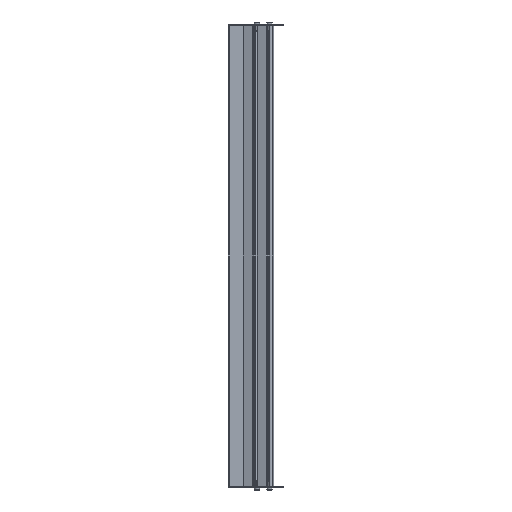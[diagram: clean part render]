
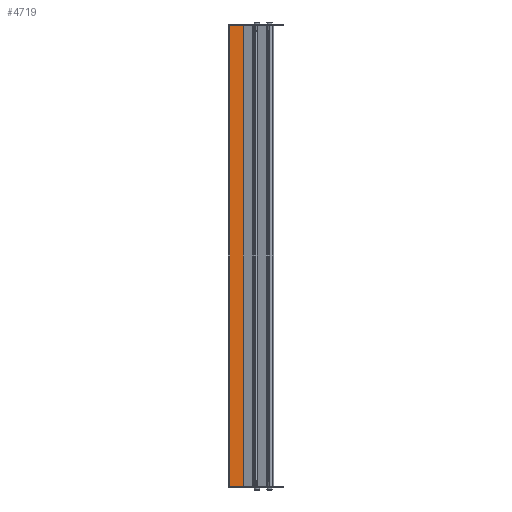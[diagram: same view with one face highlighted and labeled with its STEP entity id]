
A CAD part, left-side view. The second image highlights one B-rep face of the part: STEP entity #4719.
In plain terms, the highlighted planar face has unit normal (-1, 0, 0) as drawn and (1, 0, 0) by its records, which use the part's own axes.
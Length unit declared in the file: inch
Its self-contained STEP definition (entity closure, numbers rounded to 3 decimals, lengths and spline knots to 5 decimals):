
#3758=DIRECTION('',(0.,0.,1.));
#3759=VECTOR('',#3758,30.236);
#3760=CARTESIAN_POINT('',(0.048,0.01693,-15.118));
#3761=LINE('',#3760,#3759);
#3788=DIRECTION('',(0.,-1.,0.));
#3789=VECTOR('',#3788,0.88707);
#3790=CARTESIAN_POINT('',(0.048,0.904,-15.118));
#3791=LINE('',#3790,#3789);
#3792=DIRECTION('',(0.,-1.,0.));
#3793=VECTOR('',#3792,0.88707);
#3794=CARTESIAN_POINT('',(0.048,0.904,15.118));
#3795=LINE('',#3794,#3793);
#3796=DIRECTION('',(0.,0.,-1.));
#3797=VECTOR('',#3796,30.236);
#3798=CARTESIAN_POINT('',(0.048,0.904,15.118));
#3799=LINE('',#3798,#3797);
#4157=CARTESIAN_POINT('',(0.048,0.904,15.118));
#4159=VERTEX_POINT('',#4157);
#4206=CARTESIAN_POINT('',(0.048,0.904,-15.118));
#4207=VERTEX_POINT('',#4206);
#4325=CARTESIAN_POINT('',(0.048,0.01693,15.118));
#4327=VERTEX_POINT('',#4325);
#4332=CARTESIAN_POINT('',(0.048,0.01693,-15.118));
#4333=VERTEX_POINT('',#4332);
#4707=CARTESIAN_POINT('',(0.048,0.,15.118));
#4708=DIRECTION('',(-1.,0.,0.));
#4709=DIRECTION('',(0.,0.,1.));
#4710=AXIS2_PLACEMENT_3D('',#4707,#4708,#4709);
#4711=PLANE('',#4710);
#4712=ORIENTED_EDGE('',*,*,#4700,.T.);
#4713=ORIENTED_EDGE('',*,*,#4643,.T.);
#4714=ORIENTED_EDGE('',*,*,#4672,.F.);
#4716=ORIENTED_EDGE('',*,*,#4715,.T.);
#4717=EDGE_LOOP('',(#4712,#4713,#4714,#4716));
#4718=FACE_OUTER_BOUND('',#4717,.F.);
#4643=EDGE_CURVE('',#4333,#4327,#3761,.T.);
#4672=EDGE_CURVE('',#4159,#4327,#3795,.T.);
#4700=EDGE_CURVE('',#4207,#4333,#3791,.T.);
#4715=EDGE_CURVE('',#4159,#4207,#3799,.T.);
#4719=ADVANCED_FACE('',(#4718),#4711,.F.);
